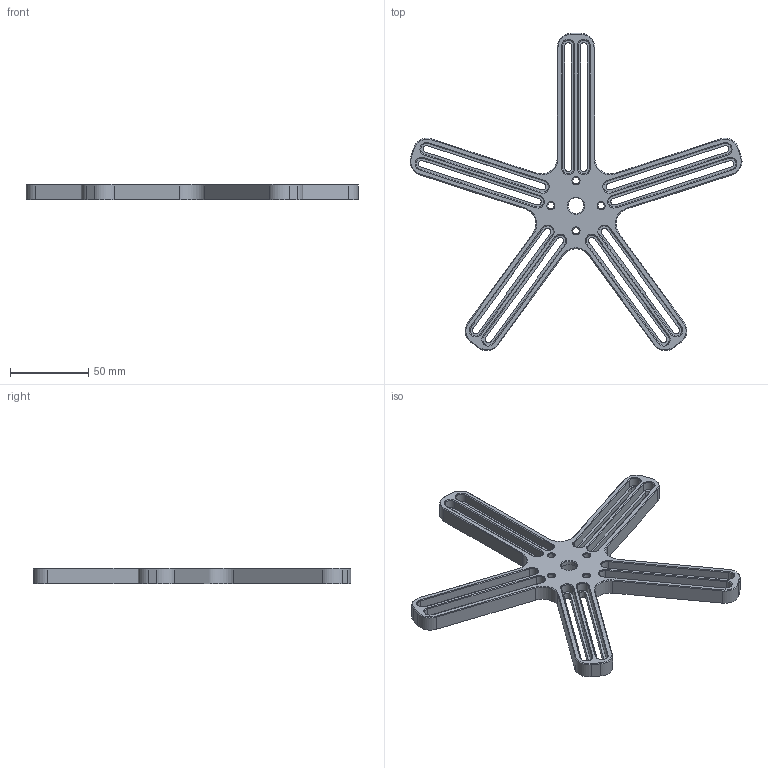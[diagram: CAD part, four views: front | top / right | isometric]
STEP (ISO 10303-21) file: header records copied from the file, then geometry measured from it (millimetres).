
FILE_DESCRIPTION (( 'STEP AP214' ), '1' );
FILE_NAME ('SMP_5L.STEP', '2019-12-04T09:10:22', ( '微软用户' ), ( '微软中国' ), 'SwSTEP 2.0', 'SolidWorks 2016', '' );
FILE_SCHEMA (( 'AUTOMOTIVE_DESIGN' ));
Length unit declared in the file: millimetre
Products named in the file (1): SMP_5L
Bounding box: 211.96 x 202.45 x 10 mm (x, y, z)
Volume: 69464.2 mm3; surface area: 44799.1 mm2
Topology: 1 solids, 1 shells, 215 faces, 526 edges, 324 vertices
Faces by surface type: plane 103, cylinder 67, cone 45
Entity records: 8718 total; most frequent: DIRECTION 1137, CARTESIAN_POINT 1066, ORIENTED_EDGE 1052, EDGE_CURVE 526, AXIS2_PLACEMENT_3D 395, LINE 347, VECTOR 347, VERTEX_POINT 324
